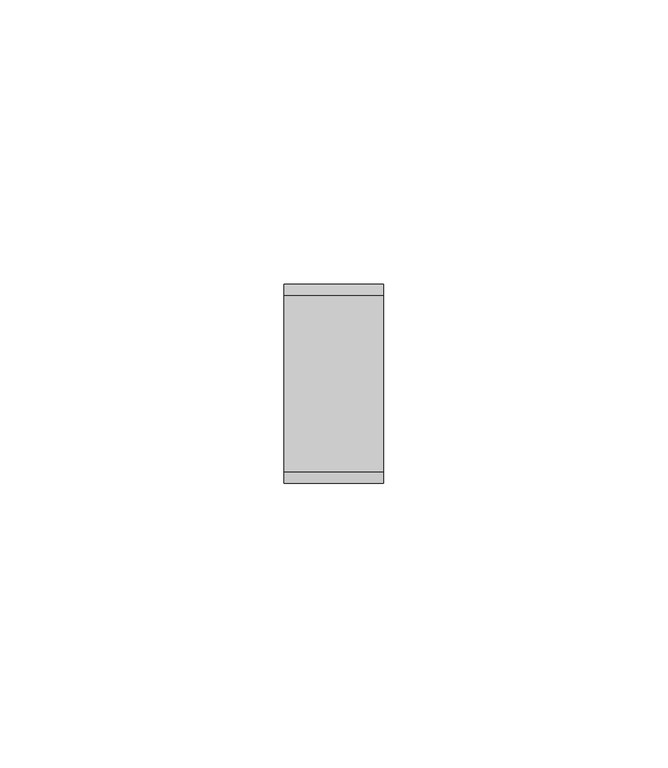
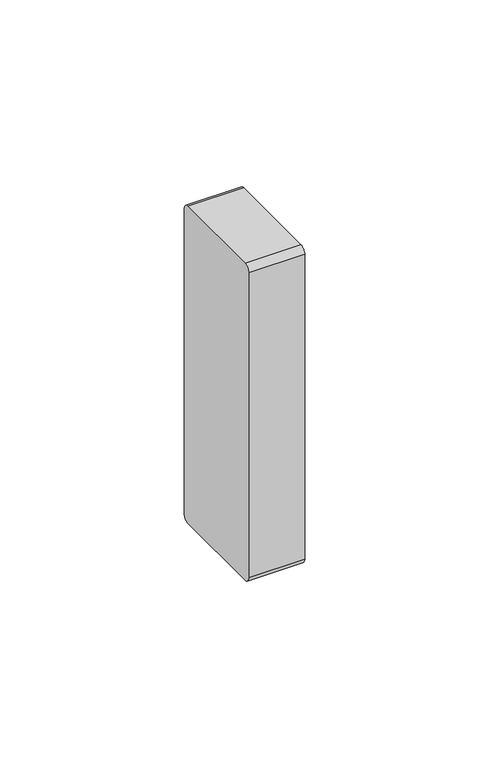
"""IFC4 building model written with IfcOpenShell, lengths in millimetres: duct fitting geometry, Накладка на стык профиля - самоклеющаяся - для односекционных кабель-каналов DLP - белый : Накладка на стык профиля - самоклеющаяся - для односекционных кабель-каналов DLP - белый."""

from ifc_helpers import new_model, si_unit, point, frame, frame_2d, origin, place, context, project, spatial, polyline, circle_curve, trimmed, segment, composite_curve, outline, extrude, source, transform, mapped, element, save


def duct_fitting_7075a5f6(model_context):
    return source(origin(), model_context, "Body", "SweptSolid", [
        extrude(outline(composite_curve([segment(trimmed(circle_curve(frame_2d((15.5, -50.5)), 2.0), [point((17.5, -50.5))], [point((15.5, -52.5))], False, "CARTESIAN"), True, "CONTINUOUS"), segment(polyline([(15.5, -52.5), (-15.5, -52.5)]), True, "CONTINUOUS"), segment(trimmed(circle_curve(frame_2d((-15.5, -50.5)), 2.0), [point((-15.5, -52.5))], [point((-17.5, -50.5))], False, "CARTESIAN"), True, "CONTINUOUS"), segment(polyline([(-17.5, -50.5), (-17.5, 50.5)]), True, "CONTINUOUS"), segment(trimmed(circle_curve(frame_2d((-15.5, 50.5)), 2.0), [point((-17.5, 50.5))], [point((-15.5, 52.5))], False, "CARTESIAN"), True, "CONTINUOUS"), segment(polyline([(-15.5, 52.5), (15.5, 52.5)]), True, "CONTINUOUS"), segment(trimmed(circle_curve(frame_2d((15.5, 50.5)), 2.0), [point((15.5, 52.5))], [point((17.5, 50.5))], False, "CARTESIAN"), True, "CONTINUOUS"), segment(polyline([(17.5, 50.5), (17.5, -50.5)]), True, "CONTINUOUS")], self_intersect=False)), frame((-17.5, 0.0, 0.0), z_axis=(1.0, 0.0, 0.0), x_axis=(0.0, 1.0, 0.0)), (0.0, 0.0, 1.0), 17.5),
    ])


if __name__ == "__main__":
    model = new_model("IFC4")
    model_context = context("Model", 3, world=origin())
    ifc_project = project(units=[si_unit("LENGTHUNIT", "METRE", prefix="MILLI")], contexts=[model_context])
    site = spatial("IfcSite", under=ifc_project)
    building = spatial("IfcBuilding", under=site)
    placement = place(None, origin())
    duct_fitting_shape = duct_fitting_7075a5f6(model_context)
    element("IfcDuctFitting", 1, ObjectType="Накладка на стык профиля - самоклеющаяся - для односекционных кабель-каналов DLP - белый : Накладка на стык профиля - самоклеющаяся - для односекционных кабель-каналов DLP - белый", at=placement, inside=building, context=model_context, shape_type="MappedRepresentation", body=[
        mapped(duct_fitting_shape, transform((0.0, 0.0, 0.0), x_axis=(1.0, 0.0, 0.0), y_axis=(0.0, 1.0, 0.0), z_axis=(0.0, 0.0, 1.0))),
    ])
    save(model, "model.ifc")
